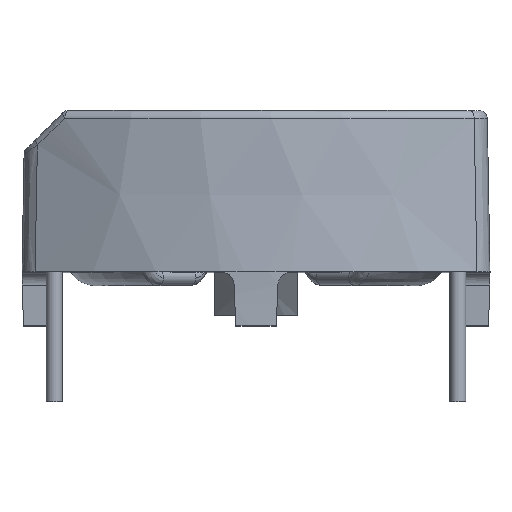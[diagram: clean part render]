
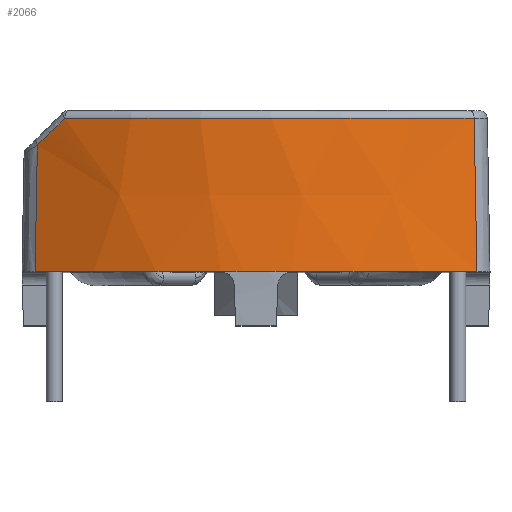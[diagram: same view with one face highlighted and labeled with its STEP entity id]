
A CAD part, top view. The second image highlights one B-rep face of the part: STEP entity #2066.
In plain terms, the highlighted conical face has half-angle 1 degrees and reference radius 16 mm.
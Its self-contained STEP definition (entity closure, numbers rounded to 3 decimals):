
#190=CONICAL_SURFACE('',#2256,16.,1.);
#243=ELLIPSE('',#2257,21.92,15.775);
#305=FACE_OUTER_BOUND('',#447,.T.);
#447=EDGE_LOOP('',(#1622,#1623,#1624,#1625,#1626,#1627,#1628));
#548=CIRCLE('',#2203,16.);
#550=CIRCLE('',#2205,16.);
#567=CIRCLE('',#2253,16.);
#569=CIRCLE('',#2258,15.9);
#884=B_SPLINE_CURVE_WITH_KNOTS('',3,(#3673,#3674,#3675,#3676),
 .UNSPECIFIED.,.F.,.F.,(4,4),(0.13,0.7),
 .UNSPECIFIED.);
#885=B_SPLINE_CURVE_WITH_KNOTS('',3,(#3681,#3682,#3683,#3684),
 .UNSPECIFIED.,.F.,.F.,(4,4),(-0.7,-0.228),
 .UNSPECIFIED.);
#937=VERTEX_POINT('',#3152);
#938=VERTEX_POINT('',#3163);
#941=VERTEX_POINT('',#3169);
#942=VERTEX_POINT('',#3171);
#1036=VERTEX_POINT('',#3671);
#1037=VERTEX_POINT('',#3678);
#1038=VERTEX_POINT('',#3679);
#1135=EDGE_CURVE('',#938,#937,#548,.T.);
#1139=EDGE_CURVE('',#942,#941,#550,.T.);
#1253=EDGE_CURVE('',#941,#938,#567,.T.);
#1257=EDGE_CURVE('',#1036,#937,#884,.T.);
#1258=EDGE_CURVE('',#1037,#1038,#243,.T.);
#1259=EDGE_CURVE('',#942,#1037,#885,.T.);
#1260=EDGE_CURVE('',#1038,#1036,#569,.T.);
#1622=ORIENTED_EDGE('',*,*,#1258,.F.);
#1623=ORIENTED_EDGE('',*,*,#1259,.F.);
#1624=ORIENTED_EDGE('',*,*,#1139,.T.);
#1625=ORIENTED_EDGE('',*,*,#1253,.T.);
#1626=ORIENTED_EDGE('',*,*,#1135,.T.);
#1627=ORIENTED_EDGE('',*,*,#1257,.F.);
#1628=ORIENTED_EDGE('',*,*,#1260,.F.);
#2066=ADVANCED_FACE('',(#305),#190,.T.);
#2203=AXIS2_PLACEMENT_3D('',#3164,#2495,#2496);
#2205=AXIS2_PLACEMENT_3D('',#3172,#2501,#2502);
#2253=AXIS2_PLACEMENT_3D('',#3642,#2653,#2654);
#2256=AXIS2_PLACEMENT_3D('',#3677,#2659,#2660);
#2257=AXIS2_PLACEMENT_3D('',#3680,#2661,#2662);
#2258=AXIS2_PLACEMENT_3D('',#3685,#2663,#2664);
#2495=DIRECTION('center_axis',(0.,1.,0.));
#2496=DIRECTION('ref_axis',(0.544,0.,0.839));
#2501=DIRECTION('center_axis',(0.,1.,0.));
#2502=DIRECTION('ref_axis',(0.544,0.,0.839));
#2653=DIRECTION('center_axis',(0.,1.,0.));
#2654=DIRECTION('ref_axis',(0.544,0.,0.839));
#2659=DIRECTION('center_axis',(0.,-1.,0.));
#2660=DIRECTION('ref_axis',(0.544,0.,0.839));
#2661=DIRECTION('center_axis',(-0.694,0.72,0.));
#2662=DIRECTION('ref_axis',(0.72,0.694,0.001));
#2663=DIRECTION('center_axis',(0.,1.,0.));
#2664=DIRECTION('ref_axis',(0.036,0.,0.999));
#3152=CARTESIAN_POINT('',(8.213,2.,6.431));
#3163=CARTESIAN_POINT('',(1.316,2.,8.646));
#3164=CARTESIAN_POINT('Origin',(0.,2.,-7.3));
#3169=CARTESIAN_POINT('',(-1.316,2.,8.646));
#3171=CARTESIAN_POINT('',(-8.213,2.,6.431));
#3172=CARTESIAN_POINT('Origin',(0.,2.,-7.3));
#3642=CARTESIAN_POINT('Origin',(0.,2.,-7.3));
#3671=CARTESIAN_POINT('',(8.111,7.705,6.376));
#3673=CARTESIAN_POINT('Ctrl Pts',(8.111,7.705,6.376));
#3674=CARTESIAN_POINT('Ctrl Pts',(8.145,5.803,6.395));
#3675=CARTESIAN_POINT('Ctrl Pts',(8.179,3.902,6.413));
#3676=CARTESIAN_POINT('Ctrl Pts',(8.213,2.,6.431));
#3677=CARTESIAN_POINT('Origin',(0.,2.,-7.3));
#3678=CARTESIAN_POINT('',(-8.128,6.72,6.386));
#3679=CARTESIAN_POINT('',(-7.107,7.705,6.924));
#3680=CARTESIAN_POINT('Origin',(-0.269,14.292,-7.292));
#3681=CARTESIAN_POINT('Ctrl Pts',(-8.213,2.,6.431));
#3682=CARTESIAN_POINT('Ctrl Pts',(-8.185,3.573,6.416));
#3683=CARTESIAN_POINT('Ctrl Pts',(-8.157,5.147,6.401));
#3684=CARTESIAN_POINT('Ctrl Pts',(-8.128,6.72,6.386));
#3685=CARTESIAN_POINT('Origin',(0.,7.705,-7.3));
